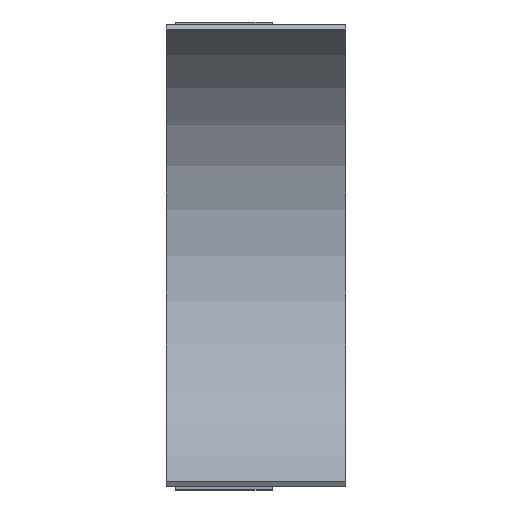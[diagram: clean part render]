
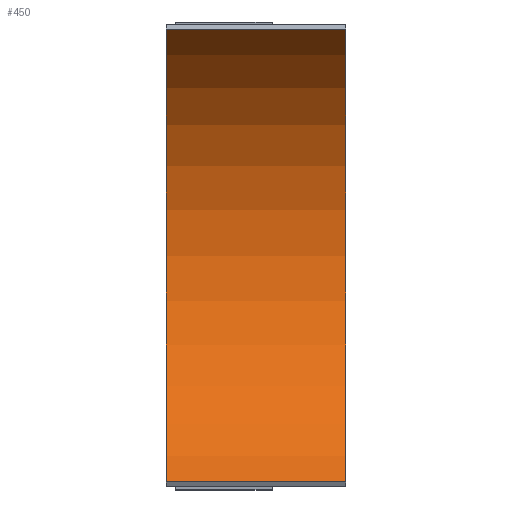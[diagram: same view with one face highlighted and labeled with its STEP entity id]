
A CAD part, top view. The second image highlights one B-rep face of the part: STEP entity #450.
In plain terms, the highlighted cylindrical face has radius 409 mm (diameter 818 mm), a partial arc.
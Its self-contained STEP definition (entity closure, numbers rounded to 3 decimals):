
#54=FACE_OUTER_BOUND('',#78,.T.);
#78=EDGE_LOOP('',(#367,#368,#369,#370));
#126=LINE('',#722,#176);
#127=LINE('',#728,#177);
#176=VECTOR('',#592,10.);
#177=VECTOR('',#599,10.);
#203=CIRCLE('',#503,409.);
#204=CIRCLE('',#504,409.);
#231=VERTEX_POINT('',#715);
#234=VERTEX_POINT('',#720);
#235=VERTEX_POINT('',#724);
#236=VERTEX_POINT('',#726);
#286=EDGE_CURVE('',#231,#234,#126,.T.);
#287=EDGE_CURVE('',#235,#231,#203,.T.);
#288=EDGE_CURVE('',#236,#234,#204,.T.);
#289=EDGE_CURVE('',#235,#236,#127,.T.);
#367=ORIENTED_EDGE('',*,*,#287,.T.);
#368=ORIENTED_EDGE('',*,*,#286,.T.);
#369=ORIENTED_EDGE('',*,*,#288,.F.);
#370=ORIENTED_EDGE('',*,*,#289,.F.);
#435=CYLINDRICAL_SURFACE('',#502,409.);
#450=ADVANCED_FACE('',(#54),#435,.F.);
#502=AXIS2_PLACEMENT_3D('',#723,#593,#594);
#503=AXIS2_PLACEMENT_3D('',#725,#595,#596);
#504=AXIS2_PLACEMENT_3D('',#727,#597,#598);
#592=DIRECTION('',(1.,0.,0.));
#593=DIRECTION('center_axis',(1.,0.,0.));
#594=DIRECTION('ref_axis',(0.,-1.,0.));
#595=DIRECTION('center_axis',(-1.,0.,0.));
#596=DIRECTION('ref_axis',(0.,-1.,0.));
#597=DIRECTION('center_axis',(-1.,0.,0.));
#598=DIRECTION('ref_axis',(0.,-1.,0.));
#599=DIRECTION('',(1.,0.,0.));
#715=CARTESIAN_POINT('',(-90.,-353.262,443.876));
#720=CARTESIAN_POINT('',(190.,-353.262,443.876));
#722=CARTESIAN_POINT('',(-90.,-353.262,443.876));
#723=CARTESIAN_POINT('Origin',(-90.,0.,650.));
#724=CARTESIAN_POINT('',(-90.,353.262,443.876));
#725=CARTESIAN_POINT('Origin',(-90.,0.,650.));
#726=CARTESIAN_POINT('',(190.,353.262,443.876));
#727=CARTESIAN_POINT('Origin',(190.,0.,650.));
#728=CARTESIAN_POINT('',(-90.,353.262,443.876));
